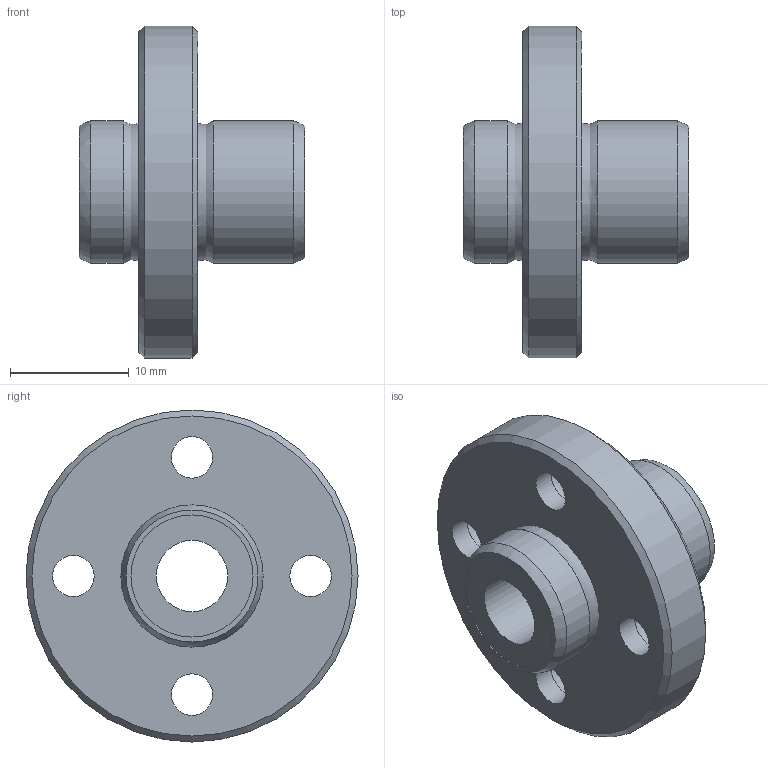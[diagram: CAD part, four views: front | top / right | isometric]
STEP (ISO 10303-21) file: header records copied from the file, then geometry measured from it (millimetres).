
FILE_DESCRIPTION((''),'2;1');
FILE_NAME('D:\製品 (図面)\カタログ用3D\リニアベアリング関連\STEP形式\LFB\LFB6.stp','2010-06-03T09:15:45',('Tsuchiya'),(''),'Autodesk Inventor 10','Autodesk Inventor 10','');
FILE_SCHEMA(('AUTOMOTIVE_DESIGN { 1 0 10303 214 1 1 1 1 }'));
Length unit declared in the file: millimetre
Products named in the file (1): LFB6
Bounding box: 19 x 28 x 28 mm (x, y, z)
Volume: 3625.6 mm3; surface area: 2684.7 mm2
Topology: 1 solids, 1 shells, 30 faces, 54 edges, 34 vertices
Faces by surface type: bspline 16, cylinder 6, plane 6, cone 2
Full cylindrical faces by diameter (mm): 6 x1, 10.3 x2, 12 x2, 28 x1
Entity records: 951 total; most frequent: CARTESIAN_POINT 423, DIRECTION 98, ORIENTED_EDGE 68, EDGE_LOOP 68, AXIS2_PLACEMENT_3D 49, FACE_BOUND 38, VERTEX_POINT 34, CIRCLE 34
